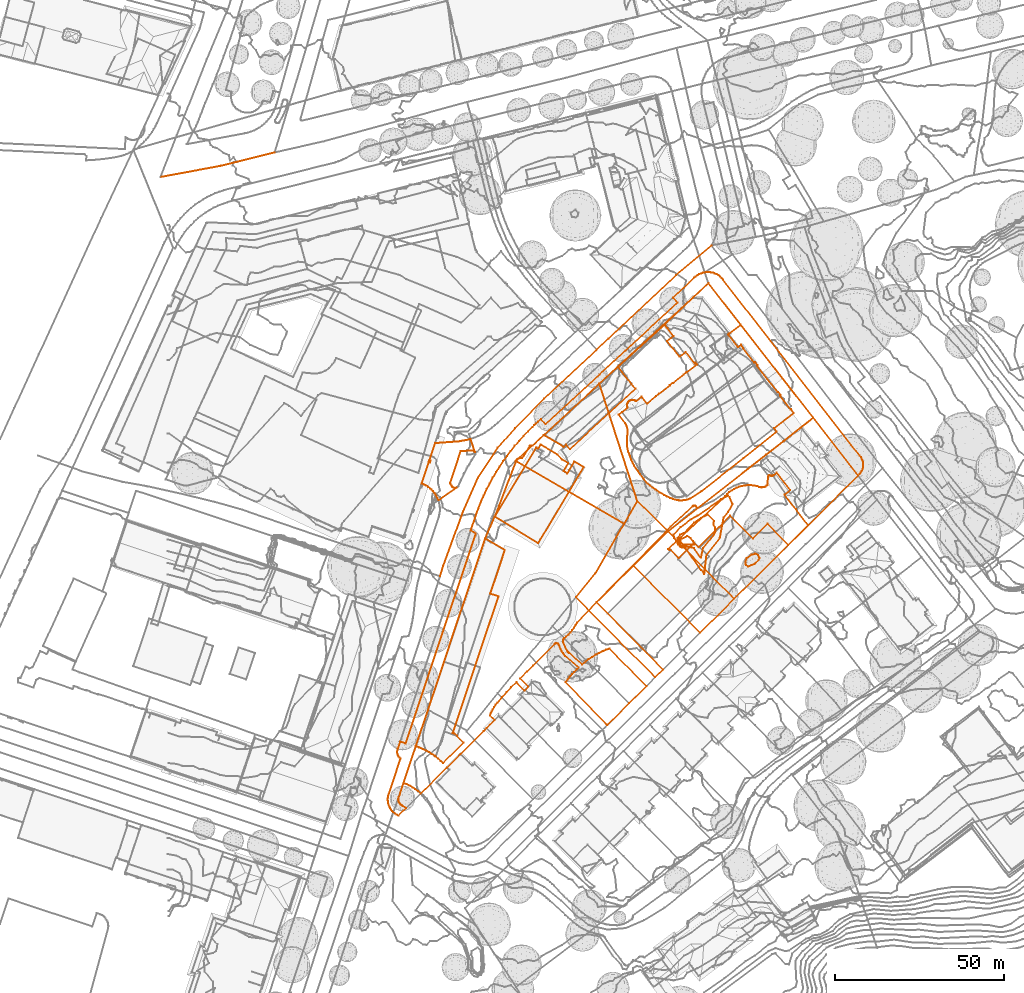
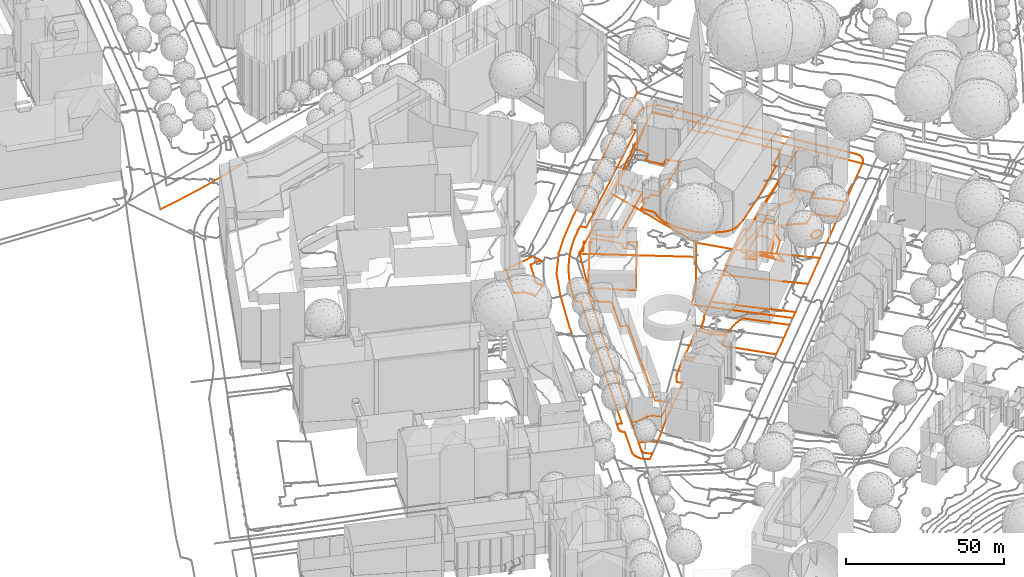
# Not in any storey, part 110 of 477: 9 geographic elements, 7 civil elements.
"""IFC4 model written with IfcOpenShell, lengths in metres."""

from ifc_helpers import new_model, entity, si_unit, frame, origin_with_axes, place, context, subcontext, project, spatial, element, save


model = new_model("IFC4")

# Units and contexts
model_context = context("Model", 3, precision=1e-05, world=origin_with_axes())
body_context = subcontext(model_context, "Body", "Model", "MODEL_VIEW")
ifc_project = project(units=[si_unit("AREAUNIT", "SQUARE_METRE"), si_unit("LENGTHUNIT", "METRE")], contexts=[model_context])

# Sites
site_1_placement = place(None, origin_with_axes())
site_1 = spatial("IfcSite", under=ifc_project, at=site_1_placement, Name="Topoexport Site")
site_2_placement = place(site_1_placement, origin_with_axes())
site_2 = spatial("IfcSite", under=site_1, at=site_2_placement, Name="TPX_ROADS")

# Civil elements
civil_element_1_placement = place(site_2_placement, frame((-2.9162679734, 301.7517339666, 537.291), z_axis=(0.0, 0.0, 1.0), x_axis=(1.0, 0.0, 0.0)))
element("IfcCivilElement", 1, at=civil_element_1_placement, inside=site_2, Name="Road 1", ObjectType="ROAD", context=body_context, shape_type="GeometricCurveSet", body=[
    entity("IfcGeometricCurveSet", [entity("IfcIndexedPolyCurve", entity("IfcCartesianPointList3D", [[0.0, 0.0, 0.0], [17.9780000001, 3.3079998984, 0.426], [33.7160000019, 7.2419997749, 1.015]]))]),
])
civil_element_2_placement = place(site_2_placement, frame((79.6067320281, 183.7807375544, 531.924), z_axis=(0.0, 0.0, 1.0), x_axis=(1.0, 0.0, 0.0)))
element("IfcCivilElement", 2, at=civil_element_2_placement, inside=site_2, Name="Road 53", ObjectType="ROAD", context=body_context, shape_type="GeometricCurveSet", body=[
    entity("IfcGeometricCurveSet", [entity("IfcIndexedPolyCurve", entity("IfcCartesianPointList3D", [[0.0, 0.0, 0.0], [0.9549999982, 3.0559999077, 0.14], [6.8289999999, 19.2089994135, 1.009], [11.2349999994, 29.1949991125, 1.572], [17.1089999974, 38.004998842, 1.92], [22.2469999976, 43.8789986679, 2.302], [30.7649999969, 52.5429984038, 2.7], [46.3499999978, 67.0489979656, 3.574]]))]),
])
civil_element_3_placement = place(site_2_placement, frame((125.9567320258, 250.8297355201, 535.498), z_axis=(0.0, 0.0, 1.0), x_axis=(1.0, 0.0, 0.0)))
element("IfcCivilElement", 3, at=civil_element_3_placement, inside=site_2, Name="Road 54", ObjectType="ROAD", context=body_context, shape_type="GeometricCurveSet", body=[
    entity("IfcGeometricCurveSet", [entity("IfcIndexedPolyCurve", entity("IfcCartesianPointList3D", [[0.0, 0.0, 0.0], [3.5050000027, 3.2619998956, 0.196], [23.3289999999, 21.9109993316, 1.445], [33.9010000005, 30.7219990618, 2.053]]))]),
])

# Site
site_3_placement = place(site_1_placement, origin_with_axes())
site_3 = spatial("IfcSite", under=site_1, at=site_3_placement, Name="TPX_ROADS_OUTLINES")

# Civil elements
civil_element_4_placement = place(site_3_placement, frame((68.8427320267, 122.7727160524, 530.417360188), z_axis=(0.0, 0.0, 1.0), x_axis=(1.0, 0.0, 0.0)))
element("IfcCivilElement", 4, at=civil_element_4_placement, inside=site_3, Name="Roads Outline 4", ObjectType="ROAD", context=body_context, shape_type="GeometricCurveSet", body=[
    entity("IfcGeometricCurveSet", [entity("IfcIndexedPolyCurve", entity("IfcCartesianPointList3D", [[0.0, 0.0, 0.0], [3.6230000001, 10.8430000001, 0.2039594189], [3.6409999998, 10.8970000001, 0.2052957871], [4.6869999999, 10.52, 0.2156433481], [5.7110000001, 10.085, 0.3930215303], [6.7080000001, 9.594, 0.9503190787], [7.54, 9.128, 1.6115277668], [8.3480000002, 8.6230000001, 2.1841172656], [9.1320000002, 8.0800000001, 2.4201392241], [9.3360000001, 7.9310000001, 2.4922078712], [9.537, 7.7780000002, 2.4996788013], [10.2710000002, 7.182, 2.4838294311], [10.9739999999, 6.551, 2.4586473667], [11.6469999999, 5.8870000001, 2.4271440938], [17.7540000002, 11.9400000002, 2.2321040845], [15.7760000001, 13.9680000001, 2.257514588], [15.0260000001, 14.686, 2.2015958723], [14.5690000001, 14.838, 2.1222932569], [28.0430000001, 55.121, 2.2357021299], [25.6439999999, 55.9230000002, 2.1241388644], [29.943, 68.7750000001, 2.3648000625], [24.1299999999, 72.199, 2.545686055], [26.9130000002, 78.6980000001, 2.6867683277], [39.7829999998, 70.8090000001, 2.1779449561], [53.2119999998, 93.334, 2.3095263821], [50.446, 94.952, 2.3938800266], [48.3790000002, 91.4570000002, 2.8495788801], [47.2859999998, 92.1000000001, 3.0311546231], [48.6770000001, 94.459, 2.6329417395], [46.895, 95.5120000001, 3.0506827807], [45.5329999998, 96.969, 3.1933591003], [40.4730000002, 99.9440000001, 4.1274934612], [39.753, 98.72, 3.8634524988], [39.2050000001, 99.031, 3.921604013], [27.21, 79.162, 2.7407848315], [33.2710000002, 95.108, 3.8324555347], [33.398, 95.351, 3.8531373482], [33.5699999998, 95.5650000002, 3.8629943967], [33.7790000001, 95.7420000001, 3.864903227], [34.0189999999, 95.875, 3.8592970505], [34.2749999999, 95.9580000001, 3.856189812], [34.5419999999, 95.9920000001, 3.8508530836], [34.8110000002, 95.9750000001, 3.8398137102], [35.071, 95.9070000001, 3.8291581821], [37.1890000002, 99.398, 3.9831124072], [37.304, 99.54, 3.9983426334], [37.4539999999, 99.6440000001, 4.0146529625], [37.6260000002, 99.7040000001, 4.0263147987], [37.784, 99.716, 4.0310413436], [37.9399999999, 99.689, 4.0297807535], [38.0860000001, 99.6260000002, 4.0223666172], [41.4330000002, 102.767, 4.1671462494], [47.3500000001, 99.267, 2.5165878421], [48.0270000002, 99.8900000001, 2.5204880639], [49.179, 98.6400000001, 2.2856863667], [68.531, 116.486, 2.2752429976], [67.3790000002, 117.737, 2.3855761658], [67.4300000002, 117.784, 2.3880908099], [63.372, 122.9470000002, 3.3224099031], [77.0490000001, 135.3540000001, 4.5182508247], [77.1490000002, 135.449, 4.5851800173], [77.4440000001, 135.1360000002, 4.5414929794], [77.3680000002, 135.0650000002, 4.4832711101], [77.969, 134.2930000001, 4.4078105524], [79.73, 132.03, 3.644511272], [77.8709999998, 130.5830000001, 2.8083666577], [81.5270000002, 125.8860000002, 2.5582329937], [83.3810000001, 127.3290000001, 3.2013033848], [86.0469999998, 123.9040000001, 3.4864772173], [86.3020000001, 124.1030000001, 3.5609178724], [86.6690000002, 123.6310000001, 3.5303301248], [83.622, 121.2620000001, 2.5717359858], [83.5610000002, 121.341, 2.5662295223], [82.7000000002, 120.6700000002, 2.3848896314], [82.7609999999, 120.591, 2.3909373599], [79.5640000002, 118.105, 2.3032011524], [79.503, 118.1840000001, 2.297669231], [78.642, 117.514, 2.2574503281], [78.7030000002, 117.4350000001, 2.2634815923], [75.5070000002, 114.95, 2.229922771], [75.446, 115.0290000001, 2.2251744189], [74.577, 114.3530000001, 2.220631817], [74.6379999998, 114.274, 2.2252215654], [71.9100000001, 112.051, 2.2516929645], [70.3399999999, 114.061, 2.2408872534], [68.6970000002, 112.7790000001, 2.2519545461], [68.4279999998, 112.9650000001, 2.247821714], [68.128, 113.0920000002, 2.2459529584], [67.8080000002, 113.1570000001, 2.2447124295], [67.4819999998, 113.156, 2.2437820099], [67.162, 113.0900000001, 2.2433793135], [66.8629999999, 112.9610000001, 2.2432723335], [66.5950000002, 112.774, 2.2468598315], [66.3530000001, 112.514, 2.2542314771], [66.1740000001, 112.2080000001, 2.2626755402], [66.0660000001, 111.8700000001, 2.2717951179], [66.0350000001, 111.5160000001, 2.2834568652], [66.0819999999, 111.1640000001, 2.2954068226], [66.2050000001, 110.831, 2.3054307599], [64.5780000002, 109.564, 2.3365796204], [63.5759999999, 108.7820000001, 2.2705134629], [65.5060000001, 106.3050000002, 2.2633563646], [65.747, 105.868, 2.293709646], [65.9410000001, 105.4070000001, 2.3399620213], [66.085, 104.929, 2.396206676], [66.1779999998, 104.4380000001, 2.4118021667], [66.21, 103.9380000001, 2.41026646], [66.193, 103.4370000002, 2.3909792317], [66.128, 102.9400000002, 2.3653557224], [66.0150000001, 102.452, 2.3438910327], [65.9930000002, 101.4480000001, 2.3590387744], [66.0120000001, 100.443, 2.4160613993], [66.0720000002, 99.4400000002, 2.4510820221], [66.2069999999, 98.696, 2.4547194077], [66.3900000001, 97.9610000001, 2.4801277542], [66.6189999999, 97.24, 2.5244054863], [66.8930000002, 96.5350000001, 2.5513765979], [67.2659999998, 95.602, 2.5516251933], [67.6880000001, 94.6900000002, 2.5361533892], [68.1570000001, 93.801, 2.5297555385], [68.6719999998, 92.9400000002, 2.5340728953], [69.2310000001, 92.108, 2.5551606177], [69.8339999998, 91.3060000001, 2.5855787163], [70.906, 89.8870000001, 2.6185096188], [72.0359999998, 88.513, 2.6384057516], [72.781, 87.8430000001, 2.6445316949], [73.5729999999, 87.23, 2.6875213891], [74.4079999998, 86.6770000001, 2.7115894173], [75.6639999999, 85.844, 2.7589244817], [76.9589999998, 85.074, 2.8046147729], [77.8530000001, 84.6230000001, 2.8415480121], [78.7659999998, 84.2150000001, 2.8855007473], [79.6979999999, 83.8500000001, 2.8922088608], [80.2770000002, 83.6770000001, 2.9178944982], [80.8680000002, 83.5560000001, 2.9342630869], [81.4679999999, 83.487, 2.9498695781], [82.0720000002, 83.4720000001, 2.9691295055], [82.6749999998, 83.51, 2.9805465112], [83.3369999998, 83.6140000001, 2.9830544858], [83.9849999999, 83.7820000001, 2.9996352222], [84.6140000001, 84.013, 3.0181797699], [87.9819999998, 86.193, 3.1025944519], [100.5100000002, 95.9880000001, 3.7077755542], [110.2209999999, 103.773, 5.6024013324], [109.4750000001, 104.7750000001, 5.6416496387], [115.2850000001, 109.314, 6.4988125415], [114.4500000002, 110.388, 6.544154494], [114.3760000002, 110.331, 6.5473943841], [111.1869999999, 114.4310000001, 6.5719991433], [111.4240000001, 114.615, 6.6007817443], [110.7080000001, 115.523, 6.6308025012], [110.551, 115.4010000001, 6.6155188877], [104.3790000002, 123.338, 6.6868838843], [104.5290000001, 123.3490000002, 6.7035882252], [104.5449999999, 123.4670000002, 6.7230542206], [103.8289999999, 124.3810000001, 6.7518379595], [103.5920000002, 124.1970000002, 6.7005723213], [100.2799999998, 128.456, 7.0402415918], [100.3650000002, 128.5220000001, 7.0596980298], [99.6570000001, 129.4370000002, 7.1439388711], [98.807, 128.7750000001, 6.9414479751], [95.9270000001, 132.487, 6.935142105], [96.2319999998, 132.7240000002, 7.026119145], [99.6320000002, 135.375, 6.9090434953], [121.0359999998, 107.885, 6.4399454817], [117.3990000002, 105.0430000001, 6.4536077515], [112.264, 101.03, 5.4675513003], [107.1239999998, 97.014, 4.2830827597], [86.861, 81.1780000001, 2.2865070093], [86.4360000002, 81.723, 2.6604406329], [86.2719999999, 81.8230000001, 2.7312770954], [86.0890000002, 81.8830000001, 2.7560219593], [85.898, 81.9000000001, 2.7588563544], [85.716, 81.875, 2.747341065], [85.5440000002, 81.811, 2.7269223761], [85.389, 81.7120000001, 2.7032367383], [78.9219999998, 75.801, 2.5473552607], [57.0410000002, 53.389, 2.0974239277], [51.2749999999, 47.4040000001, 2.3144745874], [50.8659999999, 46.6940000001, 2.3243829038], [50.3900000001, 45.9350000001, 2.3292183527], [49.8659999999, 45.2080000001, 2.3404952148], [49.2960000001, 44.5160000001, 2.3798920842], [48.7149999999, 43.8940000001, 2.3965198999], [48.0970000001, 43.3090000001, 2.3654901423], [47.4449999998, 42.763, 2.3197651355], [47.3250000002, 42.594, 2.3241768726], [47.2239999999, 42.412, 2.3369843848], [47.1400000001, 42.1970000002, 2.3529697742], [47.085, 41.973, 2.3708844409], [47.1009999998, 41.784, 2.3747252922], [47.1570000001, 41.6030000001, 2.371261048], [48.335, 39.0700000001, 2.4413075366], [48.4509999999, 38.8940000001, 2.4439484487], [48.5810000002, 38.7280000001, 2.4480870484], [48.716, 38.5830000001, 2.4539056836], [48.8599999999, 38.4470000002, 2.4614539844], [52.7949999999, 35.057, 2.5409170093], [53.7319999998, 35.845, 2.5822583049], [54.7089999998, 36.5820000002, 2.6124928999], [55.7230000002, 37.2680000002, 2.6475898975], [56.7719999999, 37.899, 2.6417435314], [57.764, 38.433, 2.6563880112], [58.781, 38.919, 2.6772384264], [59.8199999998, 39.3560000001, 2.6747089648], [60.8790000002, 39.7420000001, 2.6624354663], [71.747, 28.6340000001, 3.0613976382], [66.6770000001, 23.595, 2.8597423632], [60.287, 17.237, 2.6534765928], [60.199, 17.149, 2.651679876], [47.9390000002, 29.8150000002, 2.6057415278], [48.517, 30.6140000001, 2.619009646], [49.1269999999, 31.388, 2.5857664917], [49.7689999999, 32.1360000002, 2.552026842], [50.4040000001, 32.8220000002, 2.5536527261], [51.0660000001, 33.483, 2.57782409], [51.7540000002, 34.1170000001, 2.5845467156], [47.7859999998, 37.514, 2.4543024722], [47.4589999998, 37.9200000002, 2.4278066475], [47.1540000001, 38.3430000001, 2.4239169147], [46.764, 38.9620000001, 2.4073878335], [46.4190000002, 39.6090000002, 2.3777771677], [46.122, 40.2780000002, 2.3462272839], [45.875, 40.9670000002, 2.3160286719], [45.7060000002, 41.1340000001, 2.3183877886], [45.497, 41.247, 2.3194080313], [45.2650000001, 41.2990000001, 2.3208881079], [45.0270000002, 41.2820000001, 2.3259777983], [44.804, 41.2, 2.3354696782], [44.6120000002, 41.0590000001, 2.3490075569], [38.284, 34.7520000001, 2.2874193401], [36.5320000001, 32.996, 2.3612556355], [34.452, 30.929, 2.41503838], [36.8850000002, 28.487, 2.6246972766], [35.7590000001, 27.372, 2.5799582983], [33.3560000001, 29.8500000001, 2.4179093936], [31.855, 28.327, 2.4015153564], [30.4789999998, 26.8630000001, 2.3967225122], [29.1379999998, 25.3670000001, 2.3809344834], [27.8330000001, 23.8390000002, 2.3390858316], [27.2880000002, 23.1730000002, 2.3216317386], [26.7919999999, 22.469, 2.3372706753], [26.3480000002, 21.7320000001, 2.3742560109], [26.0449999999, 21.149, 2.3440580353], [25.7749999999, 20.551, 2.325213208], [25.5380000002, 19.9380000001, 2.3799337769], [26.898, 18.594, 2.414168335], [24.5240000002, 16.243, 2.333287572], [23.665, 15.294, 2.3367632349], [16.9330000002, 8.632, 2.2408077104], [12.906, 4.6470000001, 2.3568487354], [5.0430000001, -3.1369999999, 0.292537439], [4.9959999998, -3.0889999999, 0.2913109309], [4.2710000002, -2.4179999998, 0.2481925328], [3.497, -1.8059999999, 0.2353568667], [2.6770000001, -1.254, 0.2001960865], [1.818, -0.7679999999, 0.1222256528], [0.9240000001, -0.3489999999, 0.0630957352], [0.0, 0.0, 0.0]]))]),
])
civil_element_5_placement = place(site_3_placement, frame((64.2277320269, 118.1297160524, 530.28836828), z_axis=(0.0, 0.0, 1.0), x_axis=(1.0, 0.0, 0.0)))
element("IfcCivilElement", 5, at=civil_element_5_placement, inside=site_3, Name="Roads Outline 6", ObjectType="ROAD", context=body_context, shape_type="GeometricCurveSet", body=[
    entity("IfcGeometricCurveSet", [entity("IfcIndexedPolyCurve", entity("IfcCartesianPointList3D", [[0.173, 1.1769999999, 0.0042277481], [3.7479999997, 11.8640000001, 0.0503527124], [3.4479999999, 12.1440000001, 0.0393051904], [3.1969999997, 12.47, 0.0323376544], [3.0019999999, 12.831, 0.0445833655], [2.8679999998, 13.219, 0.0682204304], [2.7999999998, 13.605, 0.0901844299], [2.7919999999, 13.997, 0.1060636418], [2.8439999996, 14.3859999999, 0.1234430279], [2.9559999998, 14.7620000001, 0.1538646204], [3.6629999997, 16.8810000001, 0.2228606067], [5.247, 16.3640000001, 0.2417633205], [25.9669999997, 78.3389999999, 2.5677302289], [24.4729999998, 79.227, 2.4997032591], [25.4169999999, 82.0549999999, 2.6888387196], [26.0579999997, 83.9709999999, 2.7931418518], [26.7569999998, 85.8670000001, 2.8703435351], [27.5129999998, 87.74, 2.9801013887], [28.3269999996, 89.5889999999, 3.1022763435], [29.196, 91.4129999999, 3.2104745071], [30.0779999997, 93.1270000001, 3.3061413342], [31.0089999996, 94.8149999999, 3.4184568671], [31.9879999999, 96.476, 3.5112335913], [33.014, 98.108, 3.6156854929], [34.0719999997, 99.6880000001, 3.693663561], [35.1749999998, 101.237, 3.7871379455], [36.321, 102.754, 3.8625529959], [37.5099999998, 104.2379999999, 3.9467925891], [38.7509999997, 105.6950000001, 4.0274813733], [40.0349999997, 107.1159999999, 4.1188305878], [41.3589999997, 108.4979999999, 4.183967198], [42.7239999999, 109.841, 4.2597486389], [43.2049999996, 110.304, 4.2890613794], [43.6969999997, 110.754, 4.306302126], [44.4499999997, 111.4509999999, 4.3595263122], [45.2059999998, 112.1429999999, 4.3689066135], [46.5889999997, 110.645, 4.4353122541], [62.4709999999, 125.2860000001, 5.2806220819], [70.2169999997, 132.416, 5.6839279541], [85.5569999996, 146.5630000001, 6.6177543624], [84.2089999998, 148.0560000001, 6.5547705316], [90.5069999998, 153.8540000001, 6.8658187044], [90.9449999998, 154.2560000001, 6.8705773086], [91.4219999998, 154.6089999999, 6.896677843], [91.9339999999, 154.909, 6.9331649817], [92.4749999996, 155.1540000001, 6.9580935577], [93.0389999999, 155.3400000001, 6.9781860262], [93.6199999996, 155.4650000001, 7.0005438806], [94.2199999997, 155.5290000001, 7.0163778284], [94.8239999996, 155.527, 7.0214423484], [95.4189999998, 155.4609999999, 7.045519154], [96.0039999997, 155.3330000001, 7.0675414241], [96.5719999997, 155.1429999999, 7.06838431], [97.1159999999, 154.8929999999, 7.0680739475], [97.6309999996, 154.5870000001, 7.0588042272], [98.1099999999, 154.227, 7.051430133], [98.548, 153.8189999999, 7.0383859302], [98.9399999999, 153.3659999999, 7.0200014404], [139.3769999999, 101.2860000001, 6.1996970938], [139.7019999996, 100.8740000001, 6.1931573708], [139.9709999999, 100.4239999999, 6.1631598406], [140.1779999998, 99.942, 6.1389504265], [140.321, 99.4369999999, 6.1298692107], [140.3959999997, 98.9180000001, 6.1227894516], [140.4029999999, 98.3929999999, 6.1013148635], [140.335, 97.838, 6.0539924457], [140.1899999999, 97.298, 6.0154147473], [139.9709999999, 96.7830000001, 5.9884527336], [139.6829999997, 96.304, 5.9849334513], [139.3299999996, 95.8689999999, 5.9872886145], [138.9209999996, 95.4879999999, 5.9804427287], [125.6509999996, 112.5279999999, 6.5689373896], [104.247, 140.0179999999, 7.0380354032], [94.6709999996, 152.3189999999, 7.0534851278], [90.1599999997, 148.013, 6.9128710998], [81.764, 140.0919999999, 4.7141719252], [81.6639999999, 139.997, 4.6472427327], [67.9869999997, 127.5900000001, 3.4514018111], [67.9499999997, 127.638, 3.5307255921], [67.9309999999, 127.621, 3.5365298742], [62.4619999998, 122.571, 4.869550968], [46.0969999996, 107.4550000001, 4.2976952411], [46.048, 107.4099999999, 4.2961381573], [42.7009999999, 104.2690000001, 4.1513585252], [42.5549999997, 104.3319999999, 4.1587726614], [42.3989999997, 104.3589999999, 4.1600332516], [42.2409999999, 104.3470000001, 4.1553067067], [42.0689999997, 104.287, 4.1436448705], [41.9189999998, 104.183, 4.1273345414], [41.804, 104.041, 4.1121043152], [39.6859999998, 100.55, 3.9581500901], [39.426, 100.618, 3.9688056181], [39.1569999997, 100.635, 3.9798449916], [38.8899999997, 100.601, 3.98518172], [38.6339999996, 100.5179999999, 3.9882889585], [38.3939999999, 100.385, 3.993895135], [38.1849999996, 100.2080000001, 3.9919863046], [38.0129999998, 99.9939999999, 3.9821292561], [37.8859999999, 99.7509999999, 3.9614474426], [31.8249999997, 83.8049999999, 2.8697767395], [31.5279999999, 83.341, 2.8157602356], [28.7449999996, 76.8419999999, 2.6746779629], [11.8309999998, 26.2350000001, 0.7721775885], [8.2559999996, 15.54, 0.3342876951], [8.2379999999, 15.486, 0.3329513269], [4.6149999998, 4.6429999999, 0.1289919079], [3.2239999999, 0.4410000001, 0.1030233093], [3.1359999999, 0.132, 0.0853487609], [3.1059999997, -0.1880000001, 0.0746146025], [3.1349999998, -0.5079999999, 0.071950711], [3.227, -0.831, 0.0868883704], [3.3779999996, -1.1300000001, 0.1041397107], [3.5829999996, -1.395, 0.1222025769], [3.8279999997, -1.675, 0.1424340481], [4.1089999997, -1.919, 0.1563469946], [4.4199999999, -2.1229999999, 0.161495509], [5.3949999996, -2.7050000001, 0.189369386], [3.1239999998, -4.9480000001, 0.1305799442], [2.5919999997, -4.6769999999, 0.1058649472], [2.0939999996, -4.348, 0.090820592], [1.6359999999, -3.9650000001, 0.0649624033], [1.284, -3.598, 0.0450009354], [0.9689999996, -3.199, 0.0312997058], [0.6939999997, -2.7709999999, 0.0198291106], [0.4619999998, -2.3189999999, 0.0102037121], [0.2479999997, -1.763, -0.0018014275], [0.0979999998, -1.186, -0.0101554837], [0.0149999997, -0.5959999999, -0.0106908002], [0.0, 0.0, 0.0], [0.0529999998, 0.5929999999, 0.0133017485], [0.173, 1.1769999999, 0.0042277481]]))]),
])
civil_element_6_placement = place(site_3_placement, frame((147.0637320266, 191.8347160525, 532.3529821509), z_axis=(0.0, 0.0, 1.0), x_axis=(1.0, 0.0, 0.0)))
element("IfcCivilElement", 6, at=civil_element_6_placement, inside=site_3, Name="Roads Outline 27", ObjectType="ROAD", context=body_context, shape_type="GeometricCurveSet", body=[
    entity("IfcGeometricCurveSet", [entity("IfcIndexedPolyCurve", entity("IfcCartesianPointList3D", [[0.0, 0.0, 0.0], [2.352, 2.3049999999, -0.5362784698], [16.1839999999, 14.9979999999, -0.5393324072], [16.716, 15.6679999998, -0.4083490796], [17.307, 16.2879999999, -0.3336229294], [17.9509999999, 16.851, -0.2160984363], [18.6440000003, 17.3539999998, -0.06642974], [19.3799999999, 17.791, 0.0510904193], [20.1520000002, 18.1599999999, 0.1856444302], [20.9539999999, 18.4579999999, 0.2913719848], [21.7800000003, 18.682, 0.4131603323], [22.6230000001, 18.8299999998, 0.546310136], [23.4760000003, 18.8999999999, 0.6841907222], [24.3319999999, 18.8939999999, 0.8167461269], [25.1839999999, 18.8089999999, 0.9553123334], [26.0249999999, 18.6479999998, 1.0562989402], [26.8470000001, 18.4109999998, 1.1060626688], [27.2170000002, 18.3059999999, 1.1296684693], [27.5989999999, 18.2659999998, 1.170077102], [27.9820000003, 18.291, 1.2088810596], [28.3560000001, 18.3809999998, 1.2290745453], [28.7090000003, 18.5329999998, 1.2377012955], [29.031, 18.743, 1.2421360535], [29.3130000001, 19.004, 1.2503889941], [29.429, 21.493, 1.4160732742], [29.673, 21.6849999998, 1.4719951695], [29.8910000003, 21.8559999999, 1.5225517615], [30.077, 21.743, 1.5389392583], [30.2830000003, 21.6709999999, 1.5627643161], [30.4990000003, 21.6439999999, 1.5927657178], [30.7090000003, 21.662, 1.6264963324], [30.9110000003, 21.7219999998, 1.6633448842], [31.0970000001, 21.821, 1.7017890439], [32.0410000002, 22.561, 1.9213537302], [36.0279999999, 17.4719999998, 2.0885429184], [34.2820000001, 16.102, 1.733390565], [37.656, 11.8059999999, 2.7151641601], [41.304, 7.0819999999, 3.2596936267], [35.4369999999, 1.2459999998, 3.0007989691], [29.3110000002, 7.5319999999, 2.2726816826], [24.9590000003, 3.2039999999, 2.9313802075], [18.2910000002, 9.929, 0.4711685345], [8.9750000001, 0.6909999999, -1.6082176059], [7.679, 1.997, -2.2092343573], [3.085, -2.5580000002, 0.1644745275], [0.5920000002, -0.0450000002, 0.0355490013], [0.3110000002, -0.324, 0.0186497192], [0.0, 0.0, 0.0]]))]),
])
civil_element_7_placement = place(site_3_placement, frame((74.1997320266, 211.2407160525, 532.6264656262), z_axis=(0.0, 0.0, 1.0), x_axis=(1.0, 0.0, 0.0)))
element("IfcCivilElement", 7, at=civil_element_7_placement, inside=site_3, Name="Roads Outline 36", ObjectType="ROAD", context=body_context, shape_type="GeometricCurveSet", body=[
    entity("IfcGeometricCurveSet", [entity("IfcIndexedPolyCurve", entity("IfcCartesianPointList3D", [[0.0, 0.0, 0.0], [2.1010000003, 6.2619999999, 0.147289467], [2.4510000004, 6.145, 0.1452710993], [2.6400000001, 6.7139999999, 0.203672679], [2.2920000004, 6.831, 0.2058299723], [4.0010000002, 11.9199999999, 0.7650686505], [4.5360000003, 11.959, 0.8329401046], [6.9470000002, 12.1339999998, 1.0798784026], [9.4540000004, 12.3159999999, 1.2129056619], [9.4939999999, 12.3189999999, 1.2128324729], [9.5700000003, 12.325, 1.2126738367], [9.6470000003, 12.3300000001, 1.2124051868], [10.8740000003, 12.4479999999, 1.2340188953], [12.094, 12.6240000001, 1.3129275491], [13.304, 12.8559999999, 1.3495718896], [14.5020000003, 13.145, 1.4069599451], [15.7400000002, 9.246, 1.3374332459], [15.6189999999, 9.4339999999, 1.3525783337], [15.4580000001, 9.5889999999, 1.3664513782], [15.2660000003, 9.703, 1.3778297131], [15.0520000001, 9.7689999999, 1.3865026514], [14.8290000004, 9.784, 1.3907516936], [11.537, 9.517, 1.2894016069], [8.4340000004, 0.1899999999, 0.8132751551], [8.6410000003, -0.2239999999, 0.7993723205], [8.8250000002, -0.648, 0.767076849], [8.9790000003, -0.8930000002, 0.7528556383], [9.1890000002, -1.0919999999, 0.7355244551], [9.443, -1.2310000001, 0.7277378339], [9.7240000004, -1.301, 0.7291124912], [10.014, -1.298, 0.738189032], [10.2930000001, -1.2220000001, 0.7534318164], [4.9740000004, -4.9669999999, 0.3503762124], [4.7400000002, -4.378, 0.3553255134], [4.463, -3.8090000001, 0.3611164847], [4.1430000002, -3.263, 0.3640812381], [3.8050000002, -2.7609999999, 0.3767518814], [3.4280000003, -2.2879999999, 0.3632859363], [3.0150000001, -1.845, 0.3208912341], [2.568, -1.4370000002, 0.2588913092], [1.9810000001, -0.987, 0.202043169], [1.3530000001, -0.595, 0.1286392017], [0.6910000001, -0.2650000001, 0.0412627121], [0.0, 0.0, 0.0]]))]),
])

# Site
site_4_placement = place(site_1_placement, origin_with_axes())
site_4 = spatial("IfcSite", under=site_1, at=site_4_placement, Name="TPX_CADASTRES")

# Geographic elements
geographic_element_1_placement = place(site_4_placement, frame((126.6897320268, 240.7007160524, 535.157919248), z_axis=(0.0, 0.0, 1.0), x_axis=(1.0, 0.0, 0.0)))
element("IfcGeographicElement", 8, at=geographic_element_1_placement, inside=site_4, Name="Cadastre 32", PredefinedType="NOTDEFINED", context=body_context, shape_type="GeometricCurveSet", body=[
    entity("IfcGeometricCurveSet", [entity("IfcIndexedPolyCurve", entity("IfcCartesianPointList3D", [[0.0, 0.0, 0.0], [32.2089999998, 29.7479999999, 2.1839341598], [63.1889999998, -10.0430000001, 1.6993864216], [20.2829999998, -43.5730000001, -2.5127008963], [11.213, -34.6229999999, -2.0923926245], [0.0, 0.0, 0.0]]))]),
])
geographic_element_2_placement = place(site_4_placement, frame((101.9887320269, 217.8847160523, 534.2400274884), z_axis=(0.0, 0.0, 1.0), x_axis=(1.0, 0.0, 0.0)))
element("IfcGeographicElement", 9, at=geographic_element_2_placement, inside=site_4, Name="Cadastre 33", PredefinedType="NOTDEFINED", context=body_context, shape_type="GeometricCurveSet", body=[
    entity("IfcGeometricCurveSet", [entity("IfcIndexedPolyCurve", entity("IfcCartesianPointList3D", [[0.0, 0.0, 0.0], [24.7009999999, 22.8160000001, 0.9178917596], [35.9139999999, -11.8069999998, -1.1745008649], [31.986, -18.568, -1.1853139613], [0.0, 0.0, 0.0]]))]),
])
geographic_element_3_placement = place(site_4_placement, frame((119.8047320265, 177.7207160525, 532.6434110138), z_axis=(0.0, 0.0, 1.0), x_axis=(1.0, 0.0, 0.0)))
element("IfcGeographicElement", 10, at=geographic_element_3_placement, inside=site_4, Name="Cadastre 94", PredefinedType="NOTDEFINED", context=body_context, shape_type="GeometricCurveSet", body=[
    entity("IfcGeometricCurveSet", [entity("IfcIndexedPolyCurve", entity("IfcCartesianPointList3D", [[0.0, 0.0, 0.0], [5.6900000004, 6.9920000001, -0.0134697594], [14.1700000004, 21.5959999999, 0.4113025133], [18.0980000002, 28.3570000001, 0.4221156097], [27.1680000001, 19.4069999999, 0.001807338], [16.9980000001, 9.294, -0.1042067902], [6.0790000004, -1.5590000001, -0.1286268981], [25.764, -21.3700000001, 1.0510448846], [23.4140000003, -23.7, 0.9938049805], [0.0, 0.0, 0.0]]))]),
])
geographic_element_4_placement = place(site_4_placement, frame((146.9727320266, 197.1277160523, 532.6452183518), z_axis=(0.0, 0.0, 1.0), x_axis=(1.0, 0.0, 0.0)))
element("IfcGeographicElement", 11, at=geographic_element_4_placement, inside=site_4, Name="Cadastre 106", PredefinedType="NOTDEFINED", context=body_context, shape_type="GeometricCurveSet", body=[
    entity("IfcGeometricCurveSet", [entity("IfcIndexedPolyCurve", entity("IfcCartesianPointList3D", [[0.0, 0.0, 0.0], [42.906, 33.53, 4.2120873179], [56.176, 16.49, 3.623592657], [19.5649999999, -19.9199999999, 1.9814014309], [0.0, 0.0, 0.0]]))]),
])
geographic_element_5_placement = place(site_4_placement, frame((136.8027320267, 187.0147160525, 532.5392042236), z_axis=(0.0, 0.0, 1.0), x_axis=(1.0, 0.0, 0.0)))
element("IfcGeographicElement", 12, at=geographic_element_5_placement, inside=site_4, Name="Cadastre 107", PredefinedType="NOTDEFINED", context=body_context, shape_type="GeometricCurveSet", body=[
    entity("IfcGeometricCurveSet", [entity("IfcIndexedPolyCurve", entity("IfcCartesianPointList3D", [[0.0, 0.0, 0.0], [10.1699999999, 10.1129999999, 0.1060141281], [29.7349999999, -9.807, 2.0874155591], [19.676, -19.8100000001, 1.6469561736], [0.0, 0.0, 0.0]]))]),
])

# Site
site_5_placement = place(site_1_placement, origin_with_axes())
site_5 = spatial("IfcSite", under=site_1, at=site_5_placement, Name="TPX_CONTOUR_LINES")

# Geographic elements
geographic_element_6_placement = place(site_5_placement, frame((150.6777320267, 193.8453669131, 530.0), z_axis=(0.0, 0.0, 1.0), x_axis=(1.0, 0.0, 0.0)))
element("IfcGeographicElement", 13, at=geographic_element_6_placement, inside=site_5, Name="Contour Line 530.0 m", PredefinedType="NOTDEFINED", context=body_context, shape_type="GeometricCurveSet", body=[
    entity("IfcGeometricCurveSet", [entity("IfcIndexedPolyCurve", entity("IfcCartesianPointList3D", [[4.0, -0.6944812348, 0.0], [3.74428997, 0.3253491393, 0.0], [3.0, 1.2529481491, 0.0], [2.0, 1.9200924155, 0.0], [0.0, 0.9116821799, 0.0], [0.0, 0.0, 0.0], [0.6790617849, -0.6746508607, 0.0], [4.0, -0.6944812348, 0.0]]))]),
])
geographic_element_7_placement = place(site_5_placement, frame((149.8583799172, 195.1707160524, 531.0), z_axis=(0.0, 0.0, 1.0), x_axis=(1.0, 0.0, 0.0)))
element("IfcGeographicElement", 14, at=geographic_element_7_placement, inside=site_5, Name="Contour Line 531.0 m", PredefinedType="NOTDEFINED", context=body_context, shape_type="GeometricCurveSet", body=[
    entity("IfcGeometricCurveSet", [entity("IfcIndexedPolyCurve", entity("IfcCartesianPointList3D", [[6.8193521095, -5.8771532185, 0.0], [7.4455846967, -3.0, 0.0], [10.7254545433, 1.0, 0.0], [11.1064837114, 2.0, 0.0], [11.0263437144, 3.0, 0.0], [10.5672724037, 4.0, 0.0], [10.6531117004, 5.0, 0.0], [8.8193521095, 6.8207480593, 0.0], [6.8193521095, 5.9049301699, 0.0], [4.8193521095, 4.498323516, 0.0], [1.8193521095, 1.4416243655, 0.0], [0.7234173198, 1.0, 0.0], [0.0, 0.0, 0.0], [0.8193521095, -2.2514401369, 0.0], [4.7709772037, -3.0, 0.0], [6.8193521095, -5.8771532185, 0.0]]))]),
])
geographic_element_8_placement = place(site_5_placement, frame((169.8243395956, 188.1707160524, 535.0), z_axis=(0.0, 0.0, 1.0), x_axis=(1.0, 0.0, 0.0)))
element("IfcGeographicElement", 15, at=geographic_element_8_placement, inside=site_5, Name="Contour Line 535.0 m", PredefinedType="NOTDEFINED", context=body_context, shape_type="GeometricCurveSet", body=[
    entity("IfcGeometricCurveSet", [entity("IfcIndexedPolyCurve", entity("IfcCartesianPointList3D", [[1.853392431, -1.020214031, 0.0], [2.853392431, -0.6142090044, 0.0], [3.853392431, 0.4908864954, 0.0], [4.1555064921, 1.0, 0.0], [3.798502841, 2.0, 0.0], [2.853392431, 2.3083573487, 0.0], [1.853392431, 2.0145356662, 0.0], [0.4235181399, 1.0, 0.0], [0.0, 0.0, 0.0], [0.1366334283, -1.0, 0.0], [0.853392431, -1.4173387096, 0.0], [1.853392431, -1.020214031, 0.0]]))]),
])
geographic_element_9_placement = place(site_5_placement, frame((148.6463447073, 196.1707160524, 532.0), z_axis=(0.0, 0.0, 1.0), x_axis=(1.0, 0.0, 0.0)))
element("IfcGeographicElement", 16, at=geographic_element_9_placement, inside=site_5, Name="Contour Line 532.0 m", PredefinedType="NOTDEFINED", context=body_context, shape_type="GeometricCurveSet", body=[
    entity("IfcGeometricCurveSet", [entity("IfcIndexedPolyCurve", entity("IfcCartesianPointList3D", [[9.0313873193, -11.7448218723, 0.0], [9.6735549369, -6.0, 0.0], [13.6213720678, -1.0, 0.0], [14.7343465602, 5.0, 0.0], [16.0313873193, 6.590223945, 0.0], [17.3856374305, 9.0, 0.0], [16.4868692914, 11.0, 0.0], [16.0313873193, 11.4301598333, 0.0], [14.0313873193, 10.4055370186, 0.0], [7.0313873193, 5.5477400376, 0.0], [5.0313873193, 4.4689167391, 0.0], [2.0313873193, 2.1286979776, 0.0], [0.0, 0.0, 0.0], [0.1515265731, -1.0, 0.0], [1.1211826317, -2.0, 0.0], [1.2577845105, -3.0, 0.0], [2.0313873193, -3.7616067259, 0.0], [3.5803576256, -4.0, 0.0], [8.0313873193, -10.4972867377, 0.0], [8.7517605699, -11.0, 0.0], [9.0313873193, -11.7448218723, 0.0]]))]),
])

save(model, "model.ifc")
